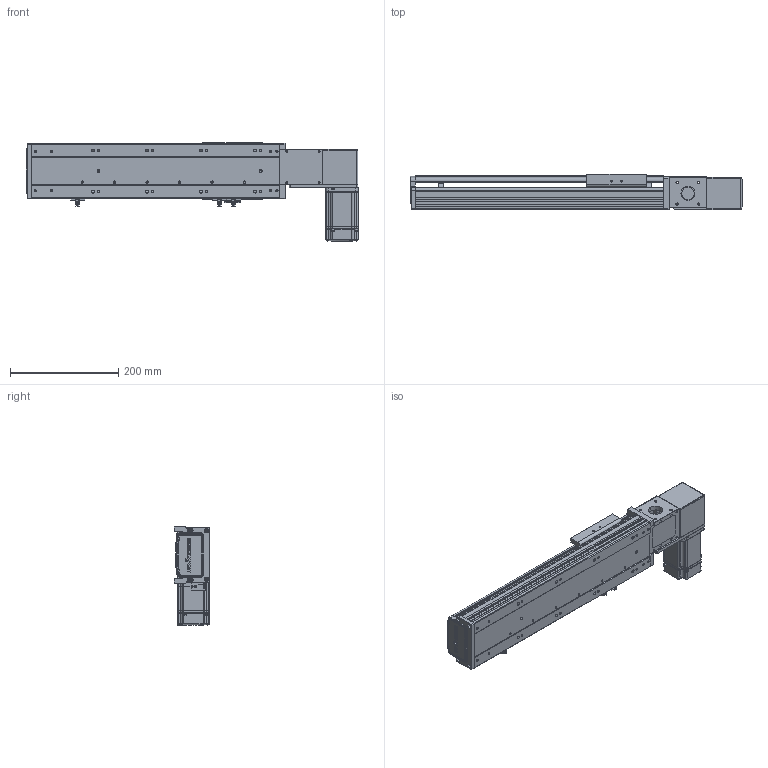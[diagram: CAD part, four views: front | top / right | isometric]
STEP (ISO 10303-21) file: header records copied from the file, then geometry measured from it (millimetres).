
FILE_DESCRIPTION (( 'STEP AP203' ), '1' );
FILE_NAME ('RY100-T-300-LK.SLDASM_250.step', '2024-04-25T05:36:35', ( '盈信电脑' ), ( '东莞市道滘镇水果街19号' ), 'SwSTEP 2.0', 'SolidWorks 2016', '' );
FILE_SCHEMA (( 'CONFIG_CONTROL_DESIGN' ));
Length unit declared in the file: millimetre
Products named in the file (13): RY100-T翋肮祭謫裔啣2; 滅袉蝶18-10; 覜茼ん672; RY100-T肮祭謫臏賑輸; RY100俋离覜茼え; RY100-T-300-RK倰第奻裔_250; RY100綴裔啣; RY100-T-300-RK倰第菁釱_250; RY100-T-300-LK.SLDASM_250; RY100-T左右折电机安装板; RY100-T肮祭謫翋盓傅釱; RY80-T肮祭謫俋欶; 1
Assembly tree (16 placements, depth 2):
  RY100-T-300-LK.SLDASM_250
    RY100-T-300-RK倰第菁釱_250
    RY100-T-300-RK倰第奻裔_250
    RY100-T肮祭謫臏賑輸
    RY100綴裔啣
    覜茼ん672  x3
    RY100俋离覜茼え
    RY100-T肮祭謫翋盓傅釱
    滅袉蝶18-10  x2
    RY100-T翋肮祭謫裔啣2  x2
    RY80-T肮祭謫俋欶
    RY100-T左右折电机安装板
    1
Bounding box: 614 x 66 x 182.5 mm (x, y, z)
Volume: 1416454 mm3; surface area: 538832.3 mm2
Topology: 16 solids, 16 shells, 2058 faces, 5706 edges, 3704 vertices
Faces by surface type: plane 1162, cylinder 693, cone 125, bspline 78
Entity records: 64772 total; most frequent: CARTESIAN_POINT 15567, ORIENTED_EDGE 10148, DIRECTION 9622, EDGE_CURVE 5074, LINE 3378, VECTOR 3378, VERTEX_POINT 3340, AXIS2_PLACEMENT_3D 3122
